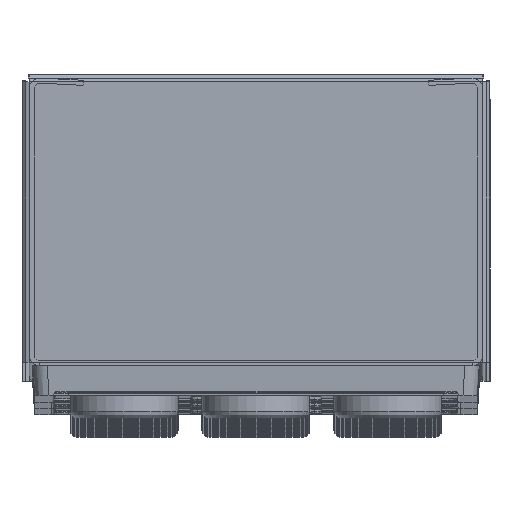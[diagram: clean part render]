
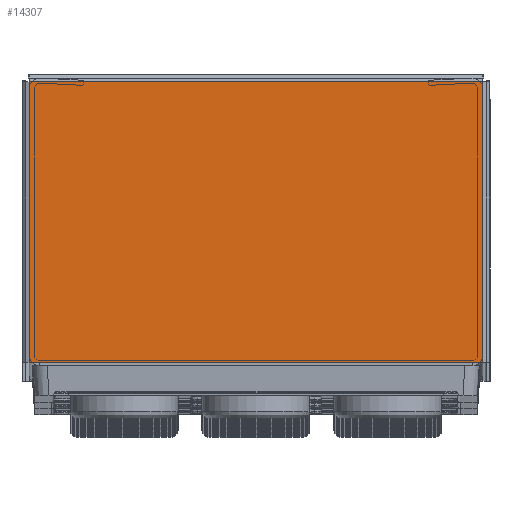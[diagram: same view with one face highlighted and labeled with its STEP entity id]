
A CAD part, top view. The second image highlights one B-rep face of the part: STEP entity #14307.
In plain terms, the highlighted planar face has unit normal (0, 0, 1).
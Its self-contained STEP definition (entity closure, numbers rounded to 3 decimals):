
#2339=FACE_OUTER_BOUND('',#3369,.T.);
#3369=EDGE_LOOP('',(#10939,#10940,#10941,#10942));
#4663=LINE('',#26267,#5361);
#4673=LINE('',#26300,#5371);
#4691=LINE('',#26343,#5389);
#4708=LINE('',#26381,#5406);
#5361=VECTOR('',#19145,10.);
#5371=VECTOR('',#19179,10.);
#5389=VECTOR('',#19225,10.);
#5406=VECTOR('',#19268,10.);
#6290=VERTEX_POINT('',#26264);
#6291=VERTEX_POINT('',#26266);
#6294=VERTEX_POINT('',#26298);
#6305=VERTEX_POINT('',#26342);
#7934=EDGE_CURVE('',#6291,#6290,#4663,.T.);
#7948=EDGE_CURVE('',#6290,#6294,#4673,.T.);
#7970=EDGE_CURVE('',#6305,#6291,#4691,.T.);
#7990=EDGE_CURVE('',#6305,#6294,#4708,.T.);
#10939=ORIENTED_EDGE('',*,*,#7934,.T.);
#10940=ORIENTED_EDGE('',*,*,#7948,.T.);
#10941=ORIENTED_EDGE('',*,*,#7990,.F.);
#10942=ORIENTED_EDGE('',*,*,#7970,.T.);
#13727=PLANE('',#15775);
#14307=ADVANCED_FACE('',(#2339),#13727,.T.);
#15775=AXIS2_PLACEMENT_3D('',#26387,#19272,#19273);
#19145=DIRECTION('',(-1.,0.,0.));
#19179=DIRECTION('',(0.,-1.,0.));
#19225=DIRECTION('',(0.,1.,0.));
#19268=DIRECTION('',(-1.,0.,0.));
#19272=DIRECTION('center_axis',(0.,0.,
1.));
#19273=DIRECTION('ref_axis',(1.,0.,0.));
#26264=CARTESIAN_POINT('',(-31.5,39.419,750.5));
#26266=CARTESIAN_POINT('',(31.5,39.419,750.5));
#26267=CARTESIAN_POINT('',(15.75,39.419,750.5));
#26298=CARTESIAN_POINT('',(-31.5,0.419,750.5));
#26300=CARTESIAN_POINT('',(-31.5,29.919,750.5));
#26342=CARTESIAN_POINT('',(31.5,0.419,750.5));
#26343=CARTESIAN_POINT('',(31.5,10.419,750.5));
#26381=CARTESIAN_POINT('',(32.5,0.419,750.5));
#26387=CARTESIAN_POINT('Origin',(0.,20.419,
750.5));
